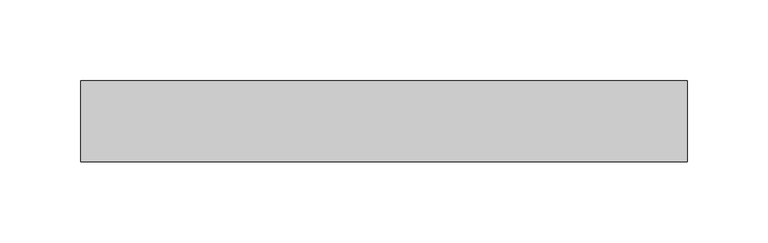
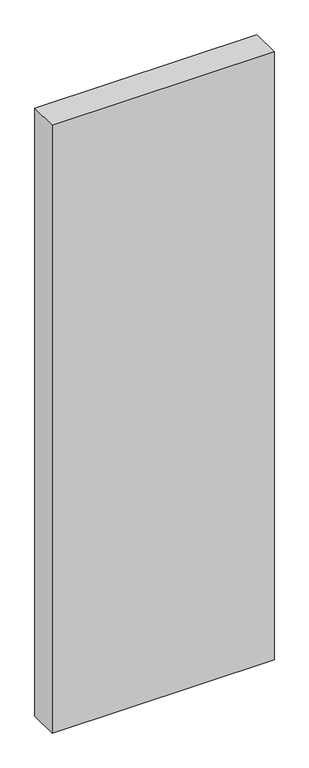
"""IFC4 building model written with IfcOpenShell, lengths in millimetres: plate geometry, Системная панель : Стекло(50мм)."""

from ifc_helpers import new_model, si_unit, origin, origin_with_axes, place, context, project, spatial, polyline, outline, extrude, source, transform, mapped, element, save


def plate_163f2816(model_context):
    return source(origin(), model_context, "Body", "SweptSolid", [
        extrude(outline(polyline([(187.5, -25.0), (-187.5, -25.0), (-187.5, 25.0), (187.5, 25.0), (187.5, -25.0)])), origin_with_axes(), (0.0, 0.0, 1.0), 1085.0),
    ])


if __name__ == "__main__":
    model = new_model("IFC4")
    model_context = context("Model", 3, world=origin())
    ifc_project = project(units=[si_unit("LENGTHUNIT", "METRE", prefix="MILLI")], contexts=[model_context])
    site = spatial("IfcSite", under=ifc_project)
    building = spatial("IfcBuilding", under=site)
    placement = place(None, origin())
    plate_shape = plate_163f2816(model_context)
    element("IfcPlate", 1, ObjectType="Системная панель : Стекло(50мм)", at=placement, inside=building, context=model_context, shape_type="MappedRepresentation", body=[
        mapped(plate_shape, transform((0.0, 0.0, 0.0), x_axis=(1.0, 0.0, 0.0), y_axis=(0.0, 1.0, 0.0), z_axis=(0.0, 0.0, 1.0))),
    ])
    save(model, "model.ifc")
